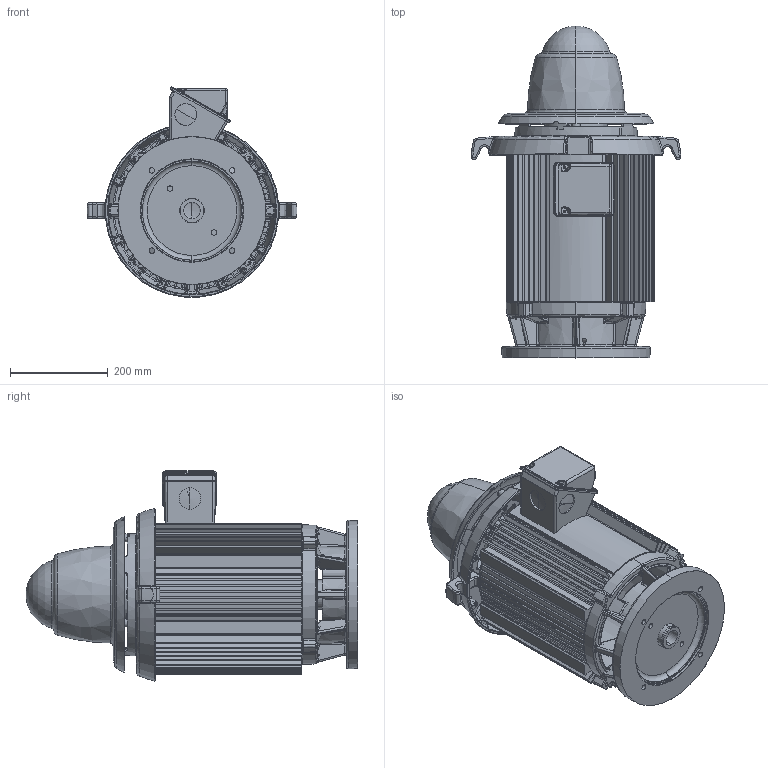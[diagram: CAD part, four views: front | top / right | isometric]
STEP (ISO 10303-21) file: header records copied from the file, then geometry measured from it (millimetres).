
FILE_DESCRIPTION((''),'2;1');
FILE_NAME('250AU_ASSY_ASM','2016-03-30T',('emd2341'),('Nidec Motor Corporation'),'PRO/ENGINEER BY PARAMETRIC TECHNOLOGY CORPORATION, 2013150','PRO/ENGINEER BY PARAMETRIC TECHNOLOGY CORPORATION, 2013150','');
FILE_SCHEMA(('CONFIG_CONTROL_DESIGN'));
Length unit declared in the file: inch
Products named in the file (9): 0380257_AF0; 1001048; 0396184; 0364229-OBB; 0364236; 0116910; SHAFT; 0396188-CAP; 250AU_ASSY_ASM
Assembly tree (8 placements, depth 2):
  250AU_ASSY_ASM
    0380257_AF0
    1001048
    0396184
    0364229-OBB
    0364236
    0116910
    SHAFT
    0396188-CAP
Bounding box: 428.26 x 677.75 x 429.37 mm (x, y, z)
Volume: 7399179.6 mm3; surface area: 2435764 mm2
Topology: 10 solids, 10 shells, 3344 faces, 8070 edges, 4703 vertices
Faces by surface type: bspline 1130, cylinder 828, plane 624, torus 363, cone 277, sphere 120, extrusion 2
Entity records: 146553 total; most frequent: CARTESIAN_POINT 77770, ORIENTED_EDGE 16032, DIRECTION 12213, EDGE_CURVE 8016, AXIS2_PLACEMENT_3D 5125, VERTEX_POINT 4703, EDGE_LOOP 3471, FACE_OUTER_BOUND 3344
